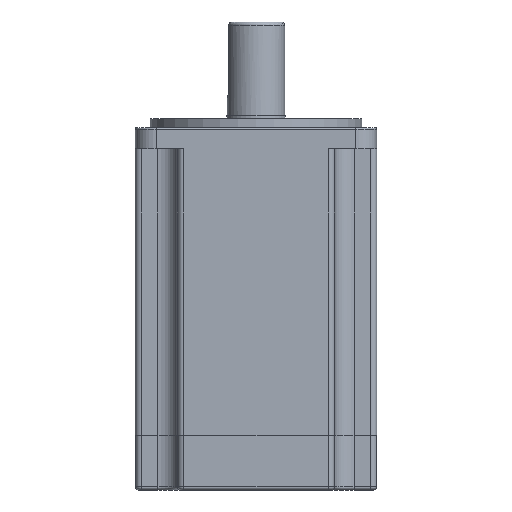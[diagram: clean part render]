
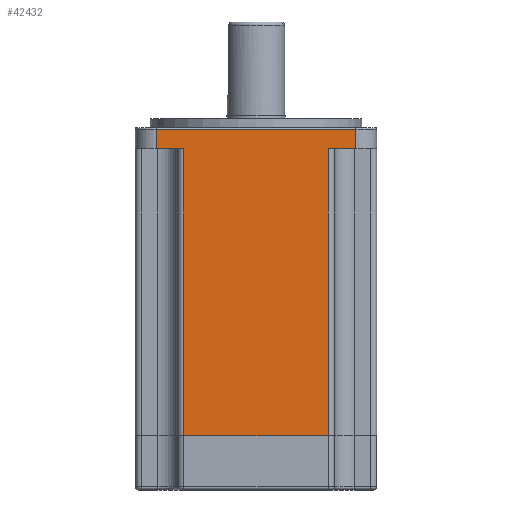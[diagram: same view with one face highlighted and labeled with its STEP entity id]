
A CAD part, front view. The second image highlights one B-rep face of the part: STEP entity #42432.
In plain terms, the highlighted planar face has unit normal (0, -1, 0).
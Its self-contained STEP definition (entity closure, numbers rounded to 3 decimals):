
#122 = CARTESIAN_POINT ( 'NONE',  ( -33., -40., -0.5 ) ) ;
#294 = LINE ( 'NONE', #11938, #8158 ) ;
#1017 = VECTOR ( 'NONE', #48852, 1000. ) ;
#3305 = ORIENTED_EDGE ( 'NONE', *, *, #38121, .F. ) ;
#4700 = CARTESIAN_POINT ( 'NONE',  ( 24., -40., -102. ) ) ;
#5158 = LINE ( 'NONE', #122, #35494 ) ;
#5212 = VERTEX_POINT ( 'NONE', #40777 ) ;
#6583 = EDGE_LOOP ( 'NONE', ( #24630, #23935, #27228, #41739, #33536, #3305, #21461, #35990 ) ) ;
#6815 = CARTESIAN_POINT ( 'NONE',  ( -33., -40., -7. ) ) ;
#6942 = CARTESIAN_POINT ( 'NONE',  ( -33., -40., -7. ) ) ;
#7974 = CARTESIAN_POINT ( 'NONE',  ( 33., -40., -0.5 ) ) ;
#8069 = VECTOR ( 'NONE', #31938, 1000. ) ;
#8158 = VECTOR ( 'NONE', #37530, 1000. ) ;
#8770 = VERTEX_POINT ( 'NONE', #48021 ) ;
#9797 = LINE ( 'NONE', #36056, #53250 ) ;
#10188 = CARTESIAN_POINT ( 'NONE',  ( -33., -40., -7. ) ) ;
#10703 = LINE ( 'NONE', #17941, #8069 ) ;
#10873 = EDGE_CURVE ( 'NONE', #38554, #44149, #45800, .T. ) ;
#11420 = DIRECTION ( 'NONE',  ( -1., 0., 0. ) ) ;
#11473 = CARTESIAN_POINT ( 'NONE',  ( 24., -40., -7. ) ) ;
#11938 = CARTESIAN_POINT ( 'NONE',  ( 33., -40., -7. ) ) ;
#12144 = EDGE_CURVE ( 'NONE', #8770, #33307, #294, .T. ) ;
#13462 = FACE_OUTER_BOUND ( 'NONE', #6583, .T. ) ;
#13784 = LINE ( 'NONE', #29412, #23619 ) ;
#13917 = CARTESIAN_POINT ( 'NONE',  ( -24., -40., -7. ) ) ;
#15254 = DIRECTION ( 'NONE',  ( 0., 0., 1. ) ) ;
#15747 = AXIS2_PLACEMENT_3D ( 'NONE', #6815, #28492, #11420 ) ;
#16200 = VERTEX_POINT ( 'NONE', #11473 ) ;
#16946 = VERTEX_POINT ( 'NONE', #6942 ) ;
#17941 = CARTESIAN_POINT ( 'NONE',  ( -33., -40., -7. ) ) ;
#18252 = EDGE_CURVE ( 'NONE', #16946, #5212, #13784, .T. ) ;
#18560 = EDGE_CURVE ( 'NONE', #33307, #5212, #5158, .T. ) ;
#19882 = VERTEX_POINT ( 'NONE', #4700 ) ;
#20021 = CARTESIAN_POINT ( 'NONE',  ( -24., -40., -102. ) ) ;
#20429 = DIRECTION ( 'NONE',  ( 0., 0., 1. ) ) ;
#21461 = ORIENTED_EDGE ( 'NONE', *, *, #35768, .T. ) ;
#23446 = CARTESIAN_POINT ( 'NONE',  ( -24., -40., -7. ) ) ;
#23619 = VECTOR ( 'NONE', #15254, 1000. ) ;
#23935 = ORIENTED_EDGE ( 'NONE', *, *, #18560, .T. ) ;
#24496 = CARTESIAN_POINT ( 'NONE',  ( 24., -40., -7. ) ) ;
#24630 = ORIENTED_EDGE ( 'NONE', *, *, #12144, .T. ) ;
#26099 = VECTOR ( 'NONE', #20429, 1000. ) ;
#27228 = ORIENTED_EDGE ( 'NONE', *, *, #18252, .F. ) ;
#28492 = DIRECTION ( 'NONE',  ( 0., 1., 0. ) ) ;
#29412 = CARTESIAN_POINT ( 'NONE',  ( -33., -40., -7. ) ) ;
#31600 = DIRECTION ( 'NONE',  ( -1., 0., 0. ) ) ;
#31938 = DIRECTION ( 'NONE',  ( -1., 0., 0. ) ) ;
#32610 = LINE ( 'NONE', #10188, #42511 ) ;
#33307 = VERTEX_POINT ( 'NONE', #7974 ) ;
#33536 = ORIENTED_EDGE ( 'NONE', *, *, #10873, .T. ) ;
#35494 = VECTOR ( 'NONE', #37671, 1000. ) ;
#35768 = EDGE_CURVE ( 'NONE', #19882, #16200, #48501, .T. ) ;
#35990 = ORIENTED_EDGE ( 'NONE', *, *, #54639, .F. ) ;
#36056 = CARTESIAN_POINT ( 'NONE',  ( -26., -40., -102. ) ) ;
#36902 = EDGE_CURVE ( 'NONE', #38554, #16946, #32610, .T. ) ;
#37530 = DIRECTION ( 'NONE',  ( 0., 0., 1. ) ) ;
#37671 = DIRECTION ( 'NONE',  ( -1., 0., 0. ) ) ;
#38121 = EDGE_CURVE ( 'NONE', #19882, #44149, #9797, .T. ) ;
#38554 = VERTEX_POINT ( 'NONE', #13917 ) ;
#40777 = CARTESIAN_POINT ( 'NONE',  ( -33., -40., -0.5 ) ) ;
#41739 = ORIENTED_EDGE ( 'NONE', *, *, #36902, .F. ) ;
#42432 = ADVANCED_FACE ( 'NONE', ( #13462 ), #44193, .F. ) ;
#42511 = VECTOR ( 'NONE', #51964, 1000. ) ;
#44149 = VERTEX_POINT ( 'NONE', #20021 ) ;
#44193 = PLANE ( 'NONE',  #15747 ) ;
#45800 = LINE ( 'NONE', #23446, #1017 ) ;
#48021 = CARTESIAN_POINT ( 'NONE',  ( 33., -40., -7. ) ) ;
#48501 = LINE ( 'NONE', #24496, #26099 ) ;
#48852 = DIRECTION ( 'NONE',  ( 0., 0., -1. ) ) ;
#51964 = DIRECTION ( 'NONE',  ( -1., 0., 0. ) ) ;
#53250 = VECTOR ( 'NONE', #31600, 1000. ) ;
#54639 = EDGE_CURVE ( 'NONE', #8770, #16200, #10703, .T. ) ;
